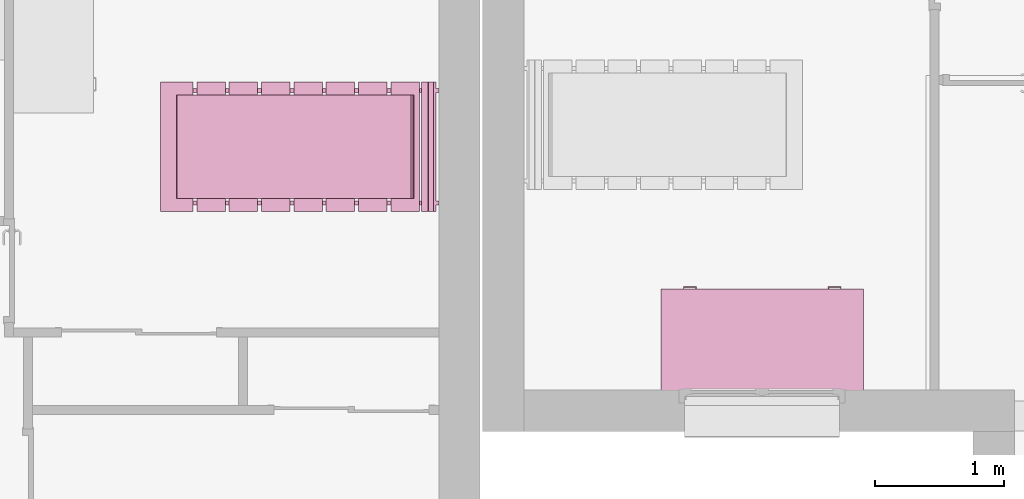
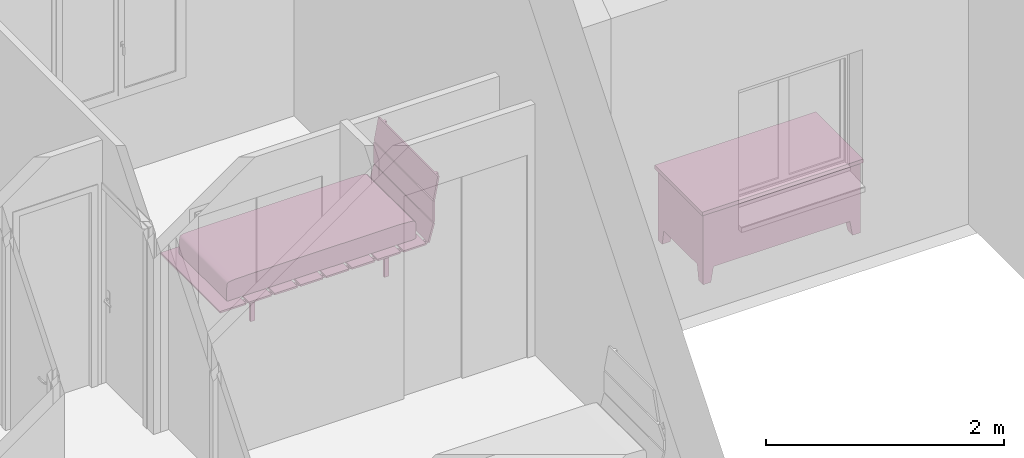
# One storey, part 46 of 50: 2 furnishings.
"""IFC2X3 building model written with IfcOpenShell, lengths in metres."""

from ifc_helpers import new_model, entity, si_unit, converted_unit, derived_unit, direction, frame, frame_2d, origin, origin_2d_with_axis, place, context, subcontext, project, spatial, polyline, circle_curve, parameter, trimmed, segment, composite_curve, rectangle, outline, extrude, faceted_brep, source, transform, mapped, material, material_list, type_object, type_shapes, element, save


model = new_model("IFC2X3")

# Units and contexts
model_context = context("Model", 3, precision=1e-05, world=origin(), true_north=direction((6.12303176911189e-17, 1.0)))
context_of_model = context(None, 3, precision=1e-05, world=origin(), true_north=direction((6.12303176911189e-17, 1.0)))
body_context = subcontext(model_context, "Body", "Model", "MODEL_VIEW")
ifc_project = project(units=[si_unit("LENGTHUNIT", "METRE"), si_unit("AREAUNIT", "SQUARE_METRE"), si_unit("VOLUMEUNIT", "CUBIC_METRE"), converted_unit("PLANEANGLEUNIT", "DEGREE", entity("IfcRatioMeasure", 0.0174532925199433), si_unit("PLANEANGLEUNIT", "RADIAN"), dimensions=[0, 0, 0, 0, 0, 0, 0]), si_unit("MASSUNIT", "GRAM", prefix="KILO"), si_unit("TIMEUNIT", "SECOND"), si_unit("FREQUENCYUNIT", "HERTZ"), si_unit("THERMODYNAMICTEMPERATUREUNIT", "DEGREE_CELSIUS"), derived_unit("THERMALTRANSMITTANCEUNIT", [(si_unit("MASSUNIT", "GRAM", prefix="KILO"), 1), (si_unit("THERMODYNAMICTEMPERATUREUNIT", "KELVIN"), -1), (si_unit("TIMEUNIT", "SECOND"), -3)]), derived_unit("VOLUMETRICFLOWRATEUNIT", [(si_unit("LENGTHUNIT", "METRE"), 3), (si_unit("TIMEUNIT", "SECOND"), -1)]), si_unit("ELECTRICCURRENTUNIT", "AMPERE"), si_unit("ELECTRICVOLTAGEUNIT", "VOLT"), si_unit("POWERUNIT", "WATT"), si_unit("FORCEUNIT", "NEWTON", prefix="KILO"), si_unit("ILLUMINANCEUNIT", "LUX"), si_unit("LUMINOUSFLUXUNIT", "LUMEN"), si_unit("LUMINOUSINTENSITYUNIT", "CANDELA"), si_unit("PRESSUREUNIT", "PASCAL")], contexts=[model_context, context_of_model])

# Site, building, storey
site_placement = place(None, origin())
site = spatial("IfcSite", under=ifc_project, at=site_placement, Name="Surface", CompositionType="ELEMENT")
building_placement = place(site_placement, origin())
building = spatial("IfcBuilding", under=site, at=building_placement, CompositionType="ELEMENT")
storey_placement = place(building_placement, frame((0.0, 0.0, 2.82)))
storey = spatial("IfcBuildingStorey", under=building, at=storey_placement, Name="ETAGE", CompositionType="ELEMENT", Elevation=2.82)

# Furnishings
ifc_material_1 = material(Name="Textile - Bleu pâle")
ifc_material_2 = material(Name="Bois - Teck")
ifc_material_3 = material(Name="Plastique - Noir")
ifc_material_list_1 = material_list([ifc_material_1, ifc_material_2, ifc_material_3])
ifc_material_list_2 = material_list([ifc_material_1, ifc_material_2, ifc_material_3])
furniture_type_1 = type_object("IfcFurnitureType", Name="1000 mm x 2000 mm 3", AssemblyPlace="NOTDEFINED", material=ifc_material_list_2)
shared_shape_1 = source(origin(), body_context, "Body", "SweptSolid", [
    extrude(outline(composite_curve([segment(polyline([(0.753947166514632, -0.0964613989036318), (0.883258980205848, -0.0964613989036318)]), True, "CONTINUOUS"), segment(trimmed(circle_curve(frame_2d((0.82804087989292, 1.1581587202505), x_axis=(0.999878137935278, -0.0156111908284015)), 1.25583465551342), [parameter(273.414556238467)], [parameter(275.726345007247)], True, "PARAMETER"), True, "CONTINUOUS"), segment(trimmed(circle_curve(frame_2d((0.929150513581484, -0.0379486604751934), x_axis=(0.999878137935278, -0.0156111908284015)), 0.0554613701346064), [parameter(275.726345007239)], [parameter(297.64810869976)], True, "PARAMETER"), True, "CONTINUOUS"), segment(trimmed(circle_curve(frame_2d((0.943544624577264, -0.0665015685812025), x_axis=(0.999878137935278, -0.0156111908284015)), 0.0234854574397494), [parameter(297.648108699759)], [parameter(348.570161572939)], True, "PARAMETER"), True, "CONTINUOUS"), segment(trimmed(circle_curve(frame_2d((0.767446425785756, -0.0280276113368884), x_axis=(0.999878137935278, -0.0156111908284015)), 0.203737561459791), [parameter(348.570161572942)], [parameter(3.56222124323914e-13)], True, "PARAMETER"), True, "CONTINUOUS"), segment(polyline([(0.971159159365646, -0.0312081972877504), (0.97301851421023, 0.0878812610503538)]), True, "CONTINUOUS"), segment(polyline([(0.97301851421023, 0.0878812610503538), (0.971187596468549, 0.10002359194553)]), True, "CONTINUOUS"), segment(polyline([(0.971187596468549, 0.10002359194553), (0.955059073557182, 0.102294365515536)]), True, "CONTINUOUS"), segment(polyline([(0.955059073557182, 0.102294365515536), (-0.834665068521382, 0.130237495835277)]), True, "CONTINUOUS"), segment(polyline([(-0.834665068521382, 0.130237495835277), (-0.854928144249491, 0.12651595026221)]), True, "CONTINUOUS"), segment(polyline([(-0.854928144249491, 0.12651595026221), (-0.861114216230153, 0.118536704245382)]), True, "CONTINUOUS"), segment(polyline([(-0.861114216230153, 0.118536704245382), (-0.865626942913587, 0.0883228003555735)]), True, "CONTINUOUS"), segment(polyline([(-0.865626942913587, 0.0883228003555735), (-0.866982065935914, 0.00152878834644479)]), True, "CONTINUOUS"), segment(polyline([(-0.866982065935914, 0.00152878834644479), (-0.863446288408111, -0.0308297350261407)]), True, "CONTINUOUS"), segment(polyline([(-0.863446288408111, -0.0308297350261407), (-0.857669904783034, -0.0490905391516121)]), True, "CONTINUOUS"), segment(polyline([(-0.857669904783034, -0.0490905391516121), (-0.843687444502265, -0.0594036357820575)]), True, "CONTINUOUS"), segment(polyline([(-0.843687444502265, -0.0594036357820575), (-0.817521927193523, -0.0658690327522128)]), True, "CONTINUOUS"), segment(polyline([(-0.817521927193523, -0.0658690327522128), (-0.696416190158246, -0.0738167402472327)]), True, "CONTINUOUS"), segment(polyline([(-0.696416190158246, -0.0738167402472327), (0.753947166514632, -0.0964613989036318)]), True, "CONTINUOUS")], self_intersect=False)), frame((-0.4, -1.05656455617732, 0.367191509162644), z_axis=(1.0, 0.0, 0.0), x_axis=(0.0, -0.999878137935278, -0.0156111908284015)), (0.0, 0.0, 1.0), 0.799999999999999),
    extrude(rectangle(XDim=0.249999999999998, YDim=1.0, at=origin_2d_with_axis()), frame((0.0, -2.02499620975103, 0.232311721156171), z_axis=(0.0, 0.0, 1.0), x_axis=(0.0, 1.0, 0.0)), (0.0, 0.0, 1.0), 0.0176882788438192),
    extrude(outline(polyline([(-0.00463256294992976, -0.115042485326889), (0.0130278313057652, -0.115042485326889), (0.00471132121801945, 0.115371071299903), (-0.0131065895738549, 0.114713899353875), (-0.00463256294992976, -0.115042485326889)])), frame((-0.5, -0.051324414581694, 0.783374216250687), z_axis=(1.0, 0.0, 0.0), x_axis=(0.0, 0.975885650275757, -0.218282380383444)), (0.0, 0.0, 1.0), 0.999999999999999),
    extrude(rectangle(XDim=0.219999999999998, YDim=1.0, at=frame_2d((-1.38777878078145e-16, 0.0), x_axis=(1.0, 0.0))), frame((0.0, -1.75999620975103, 0.232311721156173), z_axis=(0.0, 0.0, 1.0), x_axis=(0.0, 1.0, 0.0)), (0.0, 0.0, 1.0), 0.0176882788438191),
    extrude(rectangle(XDim=0.219999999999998, YDim=1.0, at=frame_2d((-1.31838984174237e-16, 0.0), x_axis=(1.0, 0.0))), frame((0.0, -1.50999620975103, 0.232311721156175), z_axis=(0.0, 0.0, 1.0), x_axis=(0.0, 1.0, 0.0)), (0.0, 0.0, 1.0), 0.017688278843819),
    extrude(rectangle(XDim=0.219999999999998, YDim=1.0, at=frame_2d((-1.38777878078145e-16, 0.0), x_axis=(1.0, 0.0))), frame((0.0, -1.25999620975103, 0.232311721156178), z_axis=(0.0, 0.0, 1.0), x_axis=(0.0, 1.0, 0.0)), (0.0, 0.0, 1.0), 0.0176882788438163),
    extrude(rectangle(XDim=0.219999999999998, YDim=1.0, at=frame_2d((6.93889390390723e-17, 0.0), x_axis=(1.0, 0.0))), frame((0.0, -1.00999620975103, 0.232311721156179), z_axis=(0.0, 0.0, 1.0), x_axis=(0.0, 1.0, 0.0)), (0.0, 0.0, 1.0), 0.0176882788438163),
    extrude(rectangle(XDim=0.22, YDim=1.0, at=origin_2d_with_axis()), frame((0.0, -0.759996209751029, 0.232311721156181), z_axis=(0.0, 0.0, 1.0), x_axis=(0.0, 1.0, 0.0)), (0.0, 0.0, 1.0), 0.0176882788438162),
    extrude(rectangle(XDim=0.22, YDim=1.0, at=origin_2d_with_axis()), frame((0.0, -0.509996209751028, 0.232311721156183), z_axis=(0.0, 0.0, 1.0), x_axis=(0.0, 1.0, 0.0)), (0.0, 0.0, 1.0), 0.0176882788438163),
    extrude(rectangle(XDim=0.22, YDim=1.0, at=origin_2d_with_axis()), frame((0.0, -0.259996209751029, 0.232311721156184), z_axis=(0.0, 0.0, 1.0), x_axis=(0.0, 1.0, 0.0)), (0.0, 0.0, 1.0), 0.0176882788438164),
    extrude(rectangle(XDim=0.0183684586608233, YDim=1.0, at=origin_2d_with_axis()), frame((0.0, -0.0735868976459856, 0.443802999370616), z_axis=(0.0, 0.0, 1.0), x_axis=(0.0, 1.0, 0.0)), (0.0, 0.0, 1.0), 0.214481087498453),
    extrude(outline(polyline([(-0.0111603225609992, -0.093944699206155), (0.00684599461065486, -0.093944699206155), (0.0109625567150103, 0.0940897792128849), (-0.00664822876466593, 0.093799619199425), (-0.0111603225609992, -0.093944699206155)])), frame((-0.5, -0.100341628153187, 0.340588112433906), z_axis=(1.0, 0.0, 0.0), x_axis=(0.0, 0.969329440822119, -0.245764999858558)), (0.0, 0.0, 1.0), 1.0),
    extrude(rectangle(XDim=0.0421792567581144, YDim=0.03, at=frame_2d((0.0, -3.38271077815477e-17), x_axis=(1.0, 0.0))), frame((-0.434999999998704, -1.80439834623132, 0.0), z_axis=(0.0, 0.0, 1.0), x_axis=(0.0, -1.0, 0.0)), (0.0, 0.0, 1.0), 0.204645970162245),
    extrude(rectangle(XDim=0.0421792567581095, YDim=0.03, at=frame_2d((3.29597460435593e-17, -3.38271077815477e-17), x_axis=(1.0, 0.0))), frame((-0.434999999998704, -0.505017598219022, 0.0), z_axis=(0.0, 0.0, 1.0), x_axis=(0.0, -1.0, 0.0)), (0.0, 0.0, 1.0), 0.204645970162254),
    extrude(rectangle(XDim=0.0421792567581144, YDim=0.03, at=frame_2d((2.70616862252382e-16, -3.38271077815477e-17), x_axis=(1.0, 0.0))), frame((0.435000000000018, -1.80439834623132, 0.0), z_axis=(0.0, 0.0, 1.0), x_axis=(0.0, 1.0, 0.0)), (0.0, 0.0, 1.0), 0.204645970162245),
    extrude(rectangle(XDim=0.0421792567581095, YDim=0.03, at=frame_2d((-3.29597460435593e-17, -3.38271077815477e-17), x_axis=(1.0, 0.0))), frame((0.435000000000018, -0.505017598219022, 0.0), z_axis=(0.0, 0.0, 1.0), x_axis=(0.0, 1.0, 0.0)), (0.0, 0.0, 1.0), 0.204645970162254),
    extrude(outline(composite_curve([segment(polyline([(-0.333462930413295, -0.507724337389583), (-0.311650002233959, -0.507724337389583)]), True, "CONTINUOUS"), segment(polyline([(-0.311650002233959, -0.507724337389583), (-0.317185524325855, -0.272424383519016)]), True, "CONTINUOUS"), segment(polyline([(-0.317185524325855, -0.272424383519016), (-0.363847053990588, -0.050782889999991)]), True, "CONTINUOUS"), segment(polyline([(-0.363847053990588, -0.050782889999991), (-0.350538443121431, 0.161194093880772)]), True, "CONTINUOUS"), segment(polyline([(-0.350538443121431, 0.161194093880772), (1.5836166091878, 0.569312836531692)]), True, "CONTINUOUS"), segment(polyline([(1.5836166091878, 0.569312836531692), (1.55147511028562, 0.589891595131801)]), True, "CONTINUOUS"), segment(polyline([(1.55147511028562, 0.589891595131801), (-0.355855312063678, 0.188346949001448)]), True, "CONTINUOUS"), segment(trimmed(circle_curve(frame_2d((-0.350332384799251, 0.162113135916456), x_axis=(0.978549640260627, 0.206011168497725)), 0.0268088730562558), [parameter(90.0)], [parameter(167.367566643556)], True, "PARAMETER"), True, "CONTINUOUS"), segment(polyline([(-0.377138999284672, 0.162461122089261), (-0.386037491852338, -0.0554545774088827)]), True, "CONTINUOUS"), segment(polyline([(-0.386037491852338, -0.0554545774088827), (-0.339375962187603, -0.277096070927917)]), True, "CONTINUOUS"), segment(polyline([(-0.339375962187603, -0.277096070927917), (-0.333462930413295, -0.507724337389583)]), True, "CONTINUOUS")], self_intersect=False)), frame((-0.449999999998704, -0.430906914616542, 0.462262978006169), z_axis=(1.0, 0.0, 0.0), x_axis=(0.0, -0.978549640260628, 0.206011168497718)), (0.0, 0.0, 1.0), 0.0299999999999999),
    extrude(outline(composite_curve([segment(polyline([(-0.333462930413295, -0.507724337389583), (-0.311650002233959, -0.507724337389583)]), True, "CONTINUOUS"), segment(polyline([(-0.311650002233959, -0.507724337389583), (-0.317185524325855, -0.272424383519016)]), True, "CONTINUOUS"), segment(polyline([(-0.317185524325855, -0.272424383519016), (-0.363847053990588, -0.0507828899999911)]), True, "CONTINUOUS"), segment(polyline([(-0.363847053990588, -0.0507828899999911), (-0.350538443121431, 0.161194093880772)]), True, "CONTINUOUS"), segment(polyline([(-0.350538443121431, 0.161194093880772), (1.5836166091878, 0.569312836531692)]), True, "CONTINUOUS"), segment(polyline([(1.5836166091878, 0.569312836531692), (1.55147511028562, 0.5898915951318)]), True, "CONTINUOUS"), segment(polyline([(1.55147511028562, 0.5898915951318), (-0.355855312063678, 0.188346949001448)]), True, "CONTINUOUS"), segment(trimmed(circle_curve(frame_2d((-0.350332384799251, 0.162113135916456), x_axis=(0.978549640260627, 0.206011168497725)), 0.0268088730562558), [parameter(90.0)], [parameter(167.367566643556)], True, "PARAMETER"), True, "CONTINUOUS"), segment(polyline([(-0.377138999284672, 0.162461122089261), (-0.386037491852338, -0.0554545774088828)]), True, "CONTINUOUS"), segment(polyline([(-0.386037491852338, -0.0554545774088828), (-0.339375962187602, -0.277096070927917)]), True, "CONTINUOUS"), segment(polyline([(-0.339375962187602, -0.277096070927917), (-0.333462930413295, -0.507724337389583)]), True, "CONTINUOUS")], self_intersect=False)), frame((0.420000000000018, -0.430906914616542, 0.462262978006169), z_axis=(1.0, 0.0, 0.0), x_axis=(0.0, -0.978549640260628, 0.206011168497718)), (0.0, 0.0, 1.0), 0.0299999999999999),
])
type_shapes(furniture_type_1, [shared_shape_1])
furnishing_1_placement = place(storey_placement, frame((75.962889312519, 86.1277566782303, 0.0199999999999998), z_axis=(0.0, 0.0, 1.0), x_axis=(0.0, -1.0, 0.0)))
element("IfcFurnishingElement", 1, at=furnishing_1_placement, inside=storey, type_object=furniture_type_1, material=ifc_material_list_1, Name="Lit à lattes:1000 mm x 2000 mm 3", ObjectType="1000 mm x 2000 mm 3", context=body_context, shape_type="MappedRepresentation", body=[
    mapped(shared_shape_1, transform((0.0, 0.0, 0.0), scale=1.0)),
])
ifc_material_4 = material(Name="Bois - Mélaminé ivoire")
ifc_material_5 = material(Name="Métal - Chrome")
ifc_material_6 = material(Name="Bois - Cerisier")
ifc_material_list_3 = material_list([ifc_material_4, ifc_material_5, ifc_material_6])
ifc_material_list_4 = material_list([ifc_material_4, ifc_material_5, ifc_material_6])
furniture_type_2 = type_object("IfcFurnitureType", Name="1525 mm x 762 mm", AssemblyPlace="NOTDEFINED", material=ifc_material_list_4)
shared_shape_2 = source(origin(), body_context, "Body", "Brep", [
    faceted_brep([(1.13765, -0.761999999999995, 0.70485), (1.50595, -0.761999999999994, 0.70485), (1.50595, -0.761999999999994, 0.60325), (1.13765, -0.761999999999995, 0.60325), (1.13765, -0.774699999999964, 0.60325), (1.13765, -0.774699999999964, 0.70485), (1.50595, -0.774699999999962, 0.60325), (1.50595, -0.774699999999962, 0.70485)], [[[0, 1, 2, 3]], [[3, 4, 5, 0]], [[2, 6, 4, 3]], [[1, 7, 6, 2]], [[0, 5, 7, 1]], [[5, 4, 6, 7]]]),
    faceted_brep([(1.50595, -0.774699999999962, 0.5842), (1.13765, -0.774699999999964, 0.5842), (1.13765, -0.774699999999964, 0.17105), (1.50595, -0.774699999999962, 0.17105), (1.13765, -0.761999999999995, 0.5842), (1.50595, -0.761999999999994, 0.5842), (1.13765, -0.761999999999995, 0.17105), (1.50595, -0.761999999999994, 0.17105)], [[[0, 1, 2, 3]], [[4, 1, 0, 5]], [[6, 2, 1, 4]], [[7, 3, 2, 6]], [[5, 0, 3, 7]], [[5, 7, 6, 4]]]),
    faceted_brep([(0.38735, -0.761999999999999, 0.70485), (0.38735, -0.761999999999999, 0.60285), (0.01905, -0.761999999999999, 0.60285), (0.01905, -0.761999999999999, 0.70485), (0.01905, -0.774700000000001, 0.70485), (0.38735, -0.774700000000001, 0.70485), (0.01905, -0.774700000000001, 0.60285), (0.38735, -0.774700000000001, 0.60285)], [[[0, 1, 2, 3]], [[3, 4, 5, 0]], [[2, 6, 4, 3]], [[1, 7, 6, 2]], [[0, 5, 7, 1]], [[5, 4, 6, 7]]]),
    faceted_brep([(0.01905, -0.774700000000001, 0.5838), (0.01905, -0.774700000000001, 0.4822), (0.38735, -0.774700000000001, 0.4822), (0.38735, -0.774700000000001, 0.5838), (0.01905, -0.761999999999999, 0.4822), (0.01905, -0.761999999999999, 0.5838), (0.38735, -0.761999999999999, 0.4822), (0.38735, -0.761999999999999, 0.5838)], [[[0, 1, 2, 3]], [[4, 1, 0, 5]], [[6, 2, 1, 4]], [[7, 3, 2, 6]], [[5, 0, 3, 7]], [[5, 7, 6, 4]]]),
    faceted_brep([(0.01905, -0.761999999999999, 0.17105), (0.01905, -0.774700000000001, 0.17105), (0.01905, -0.774700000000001, 0.3425), (0.01905, -0.761999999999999, 0.3425), (0.38735, -0.761999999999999, 0.17105), (0.38735, -0.774700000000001, 0.17105), (0.38735, -0.761999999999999, 0.3425), (0.38735, -0.774700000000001, 0.3425)], [[[0, 1, 2, 3]], [[4, 5, 1, 0]], [[6, 7, 5, 4]], [[3, 2, 7, 6]], [[2, 1, 5, 7]], [[3, 6, 4, 0]]]),
    faceted_brep([(0.01905, -0.761999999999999, 0.36155), (0.01905, -0.774700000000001, 0.36155), (0.01905, -0.774700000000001, 0.46315), (0.01905, -0.761999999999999, 0.46315), (0.38735, -0.761999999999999, 0.36155), (0.38735, -0.774700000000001, 0.36155), (0.38735, -0.761999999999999, 0.46315), (0.38735, -0.774700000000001, 0.46315)], [[[0, 1, 2, 3]], [[4, 5, 1, 0]], [[6, 7, 5, 4]], [[3, 2, 7, 6]], [[2, 1, 5, 7]], [[3, 6, 4, 0]]]),
    faceted_brep([(1.42339999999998, -0.761999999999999, 0.152), (1.52499999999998, -0.761999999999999, 0.152), (1.52499999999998, -0.660399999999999, 0.152), (1.42339999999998, -0.660399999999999, 0.152), (1.44879999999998, -0.762, 0.0), (1.44879999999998, -0.6858, 0.0), (1.52499999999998, -0.6858, 0.0), (1.52499999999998, -0.762, 0.0)], [[[0, 1, 2, 3]], [[4, 5, 6, 7]], [[4, 0, 3, 5]], [[5, 3, 2, 6]], [[6, 2, 1, 7]], [[7, 1, 0, 4]]]),
    faceted_brep([(1.4234, 0.0, 0.152), (1.4234, -0.1016, 0.152), (1.525, -0.1016, 0.152), (1.525, 0.0, 0.152), (1.4488, 0.0, 0.0), (1.525, 0.0, 0.0), (1.525, -0.0761999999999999, 0.0), (1.4488, -0.0761999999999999, 0.0)], [[[0, 1, 2, 3]], [[4, 5, 6, 7]], [[4, 0, 3, 5]], [[5, 3, 2, 6]], [[6, 2, 1, 7]], [[7, 1, 0, 4]]]),
    faceted_brep([(0.1016, 0.0, 0.152), (0.0, 0.0, 0.152), (0.0, -0.1016, 0.152), (0.1016, -0.1016, 0.152), (0.0762, 0.0, 0.0), (0.0762, -0.0761999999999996, 0.0), (0.0, -0.0761999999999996, 0.0), (0.0, 0.0, 0.0)], [[[0, 1, 2, 3]], [[4, 5, 6, 7]], [[4, 0, 3, 5]], [[5, 3, 2, 6]], [[6, 2, 1, 7]], [[7, 1, 0, 4]]]),
    faceted_brep([(0.1016, -0.762000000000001, 0.152), (0.1016, -0.660400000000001, 0.152), (0.0, -0.660400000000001, 0.152), (0.0, -0.762000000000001, 0.152), (0.0761999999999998, -0.762000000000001, 0.0), (0.0, -0.762000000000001, 0.0), (0.0, -0.685800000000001, 0.0), (0.0761999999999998, -0.685800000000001, 0.0)], [[[0, 1, 2, 3]], [[4, 5, 6, 7]], [[4, 0, 3, 5]], [[5, 3, 2, 6]], [[6, 2, 1, 7]], [[7, 1, 0, 4]]]),
    faceted_brep([(0.4064, -0.761999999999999, 0.723900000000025), (0.4064, -0.0508000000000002, 0.723900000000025), (1.11860000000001, -0.0508000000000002, 0.723900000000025), (1.11860000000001, -0.761999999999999, 0.723900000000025), (1.525, -0.761999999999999, 0.723900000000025), (1.525, 0.0, 0.723900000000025), (0.0, 0.0, 0.723900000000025), (0.0, -0.761999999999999, 0.723900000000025), (0.4064, -0.761999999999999, 0.152), (0.0, -0.761999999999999, 0.152), (0.0, 0.0, 0.152), (1.525, 0.0, 0.152), (1.525, -0.761999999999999, 0.152), (1.11860000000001, -0.761999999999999, 0.152), (1.11860000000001, -0.0508000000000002, 0.152), (0.4064, -0.0508000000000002, 0.152)], [[[0, 1, 2, 3, 4, 5, 6, 7]], [[8, 9, 10, 11, 12, 13, 14, 15]], [[7, 9, 8, 0]], [[6, 10, 9, 7]], [[5, 11, 10, 6]], [[4, 12, 11, 5]], [[3, 13, 12, 4]], [[2, 14, 13, 3]], [[1, 15, 14, 2]], [[0, 8, 15, 1]]]),
    faceted_brep([(1.54405000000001, -0.781049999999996, 0.761999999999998), (1.54405000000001, 0.0190500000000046, 0.761999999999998), (-0.0190499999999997, 0.0190500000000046, 0.761999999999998), (-0.0190499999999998, -0.781049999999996, 0.761999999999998), (1.54405000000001, -0.781049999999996, 0.723900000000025), (-0.0190499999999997, -0.781049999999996, 0.723900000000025), (-0.0190499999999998, 0.0190500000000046, 0.723900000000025), (1.54405000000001, 0.0190500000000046, 0.723900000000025)], [[[0, 1, 2, 3]], [[4, 5, 6, 7]], [[3, 5, 4, 0]], [[2, 6, 5, 3]], [[1, 7, 6, 2]], [[0, 4, 7, 1]]]),
    faceted_brep([(1.36624999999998, -0.774699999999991, 0.546100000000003), (1.37259999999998, -0.774699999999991, 0.546100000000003), (1.37259999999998, -0.774699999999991, 0.533399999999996), (1.36624999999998, -0.774699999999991, 0.533399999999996), (1.36624999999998, -0.793749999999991, 0.533399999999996), (1.36624999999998, -0.793749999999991, 0.546100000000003), (1.37259999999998, -0.80009999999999, 0.533399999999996), (1.37259999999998, -0.80009999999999, 0.546100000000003), (1.27734999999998, -0.793749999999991, 0.533399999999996), (1.27734999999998, -0.793749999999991, 0.546100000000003), (1.27099999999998, -0.80009999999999, 0.533399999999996), (1.27099999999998, -0.80009999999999, 0.546100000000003), (1.27734999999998, -0.774699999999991, 0.533399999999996), (1.27734999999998, -0.774699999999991, 0.546100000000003), (1.27099999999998, -0.774699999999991, 0.533399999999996), (1.27099999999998, -0.774699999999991, 0.546100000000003)], [[[0, 1, 2, 3]], [[3, 4, 5, 0]], [[2, 6, 4, 3]], [[1, 7, 6, 2]], [[0, 5, 7, 1]], [[4, 8, 9, 5]], [[6, 10, 8, 4]], [[7, 11, 10, 6]], [[5, 9, 11, 7]], [[8, 12, 13, 9]], [[10, 14, 12, 8]], [[11, 15, 14, 10]], [[9, 13, 15, 11]], [[13, 12, 14, 15]]]),
    faceted_brep([(1.36624999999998, -0.774699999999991, 0.654050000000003), (1.36624999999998, -0.79374999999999, 0.654050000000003), (1.36624999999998, -0.79374999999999, 0.666750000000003), (1.36624999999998, -0.774699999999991, 0.666750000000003), (1.37259999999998, -0.774699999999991, 0.654050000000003), (1.37259999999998, -0.800099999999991, 0.654050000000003), (1.37259999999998, -0.774699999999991, 0.666750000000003), (1.37259999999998, -0.800099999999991, 0.666750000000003), (1.27734999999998, -0.79374999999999, 0.654050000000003), (1.27734999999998, -0.79374999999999, 0.666750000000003), (1.27099999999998, -0.800099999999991, 0.654050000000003), (1.27099999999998, -0.800099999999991, 0.666750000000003), (1.27734999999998, -0.774699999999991, 0.666750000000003), (1.27734999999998, -0.774699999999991, 0.654050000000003), (1.27099999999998, -0.774699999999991, 0.654050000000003), (1.27099999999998, -0.774699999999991, 0.666750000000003)], [[[0, 1, 2, 3]], [[4, 5, 1, 0]], [[6, 7, 5, 4]], [[3, 2, 7, 6]], [[1, 8, 9, 2]], [[5, 10, 8, 1]], [[7, 11, 10, 5]], [[2, 9, 11, 7]], [[12, 13, 14, 15]], [[8, 13, 12, 9]], [[10, 14, 13, 8]], [[11, 15, 14, 10]], [[9, 12, 15, 11]], [[3, 6, 4, 0]]]),
    faceted_brep([(0.15875, -0.774699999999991, 0.3048), (0.15875, -0.774699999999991, 0.2921), (0.1524, -0.774699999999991, 0.2921), (0.1524, -0.774699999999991, 0.3048), (0.1524, -0.800099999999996, 0.3048), (0.15875, -0.793749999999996, 0.3048), (0.1524, -0.800099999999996, 0.2921), (0.15875, -0.793749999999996, 0.2921), (0.254, -0.800099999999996, 0.3048), (0.24765, -0.793749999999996, 0.3048), (0.254, -0.800099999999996, 0.2921), (0.24765, -0.793749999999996, 0.2921), (0.254, -0.774699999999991, 0.3048), (0.24765, -0.774699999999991, 0.3048), (0.254, -0.774699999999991, 0.2921), (0.24765, -0.774699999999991, 0.2921)], [[[0, 1, 2, 3]], [[3, 4, 5, 0]], [[2, 6, 4, 3]], [[1, 7, 6, 2]], [[0, 5, 7, 1]], [[4, 8, 9, 5]], [[6, 10, 8, 4]], [[7, 11, 10, 6]], [[5, 9, 11, 7]], [[8, 12, 13, 9]], [[10, 14, 12, 8]], [[11, 15, 14, 10]], [[9, 13, 15, 11]], [[13, 12, 14, 15]]]),
    faceted_brep([(0.1524, -0.774699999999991, 0.425450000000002), (0.1524, -0.800099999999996, 0.425450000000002), (0.15875, -0.793749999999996, 0.425450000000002), (0.15875, -0.774699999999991, 0.425450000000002), (0.1524, -0.774699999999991, 0.412750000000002), (0.1524, -0.800099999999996, 0.412750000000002), (0.15875, -0.774699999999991, 0.412750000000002), (0.15875, -0.793749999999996, 0.412750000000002), (0.254, -0.800099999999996, 0.425450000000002), (0.24765, -0.793749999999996, 0.425450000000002), (0.254, -0.800099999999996, 0.412750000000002), (0.24765, -0.793749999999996, 0.412750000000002), (0.254, -0.774699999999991, 0.425450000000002), (0.24765, -0.774699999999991, 0.425450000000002), (0.254, -0.774699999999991, 0.412750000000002), (0.24765, -0.774699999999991, 0.412750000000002)], [[[0, 1, 2, 3]], [[4, 5, 1, 0]], [[6, 7, 5, 4]], [[3, 2, 7, 6]], [[1, 8, 9, 2]], [[5, 10, 8, 1]], [[7, 11, 10, 5]], [[2, 9, 11, 7]], [[8, 12, 13, 9]], [[10, 14, 12, 8]], [[11, 15, 14, 10]], [[9, 13, 15, 11]], [[13, 12, 14, 15]], [[3, 6, 4, 0]]]),
    faceted_brep([(0.1524, -0.774699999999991, 0.5461), (0.1524, -0.800099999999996, 0.5461), (0.15875, -0.793749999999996, 0.5461), (0.15875, -0.774699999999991, 0.5461), (0.1524, -0.774699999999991, 0.5334), (0.1524, -0.800099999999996, 0.5334), (0.15875, -0.774699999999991, 0.5334), (0.15875, -0.793749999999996, 0.5334), (0.254, -0.800099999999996, 0.5461), (0.24765, -0.793749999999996, 0.5461), (0.254, -0.800099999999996, 0.5334), (0.24765, -0.793749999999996, 0.5334), (0.254, -0.774699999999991, 0.5461), (0.24765, -0.774699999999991, 0.5461), (0.254, -0.774699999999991, 0.5334), (0.24765, -0.774699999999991, 0.5334)], [[[0, 1, 2, 3]], [[4, 5, 1, 0]], [[6, 7, 5, 4]], [[3, 2, 7, 6]], [[1, 8, 9, 2]], [[5, 10, 8, 1]], [[7, 11, 10, 5]], [[2, 9, 11, 7]], [[8, 12, 13, 9]], [[10, 14, 12, 8]], [[11, 15, 14, 10]], [[9, 13, 15, 11]], [[13, 12, 14, 15]], [[3, 6, 4, 0]]]),
    faceted_brep([(0.1524, -0.774699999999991, 0.666750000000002), (0.1524, -0.800099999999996, 0.666750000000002), (0.15875, -0.793749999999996, 0.666750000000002), (0.15875, -0.774699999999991, 0.666750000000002), (0.1524, -0.774699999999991, 0.654050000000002), (0.1524, -0.800099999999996, 0.654050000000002), (0.15875, -0.774699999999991, 0.654050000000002), (0.15875, -0.793749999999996, 0.654050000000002), (0.254, -0.800099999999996, 0.666750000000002), (0.24765, -0.793749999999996, 0.666750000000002), (0.254, -0.800099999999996, 0.654050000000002), (0.24765, -0.793749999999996, 0.654050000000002), (0.24765, -0.774699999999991, 0.666750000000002), (0.254, -0.774699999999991, 0.666750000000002), (0.254, -0.774699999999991, 0.654050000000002), (0.24765, -0.774699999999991, 0.654050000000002)], [[[0, 1, 2, 3]], [[4, 5, 1, 0]], [[6, 7, 5, 4]], [[3, 2, 7, 6]], [[1, 8, 9, 2]], [[5, 10, 8, 1]], [[7, 11, 10, 5]], [[2, 9, 11, 7]], [[12, 13, 14, 15]], [[8, 13, 12, 9]], [[10, 14, 13, 8]], [[11, 15, 14, 10]], [[9, 12, 15, 11]], [[3, 6, 4, 0]]]),
])
type_shapes(furniture_type_2, [shared_shape_2])
furnishing_2_placement = place(storey_placement, frame((79.2260189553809, 84.2475239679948, 0.0199999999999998), z_axis=(0.0, 0.0, 1.0), x_axis=(-1.0, 0.0, 0.0)))
element("IfcFurnishingElement", 2, at=furnishing_2_placement, inside=storey, type_object=furniture_type_2, material=ifc_material_list_3, Name="Bureau commun:1525 mm x 762 mm", ObjectType="1525 mm x 762 mm", context=body_context, shape_type="MappedRepresentation", body=[
    mapped(shared_shape_2, transform((0.0, 0.0, 0.0), scale=1.0)),
])

save(model, "model.ifc")
